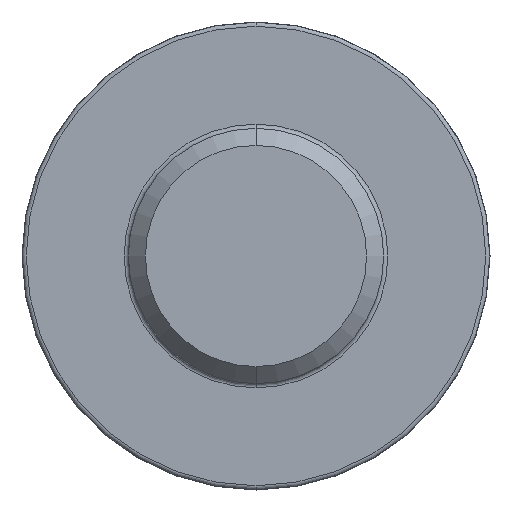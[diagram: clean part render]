
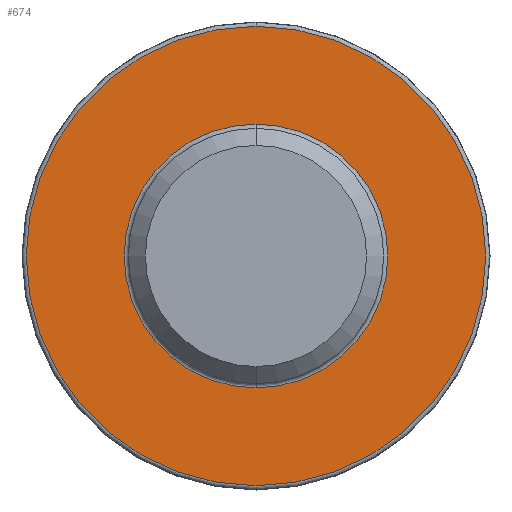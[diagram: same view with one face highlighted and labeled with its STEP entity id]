
A CAD part, front view. The second image highlights one B-rep face of the part: STEP entity #674.
In plain terms, the highlighted planar face has unit normal (0, -1, 0).
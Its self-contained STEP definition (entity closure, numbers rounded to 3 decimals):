
#22 = AXIS2_PLACEMENT_3D ( 'NONE', #90, #353, #623 ) ;
#62 = CARTESIAN_POINT ( 'NONE',  ( 1.5, -1.6, 0. ) ) ;
#76 = ORIENTED_EDGE ( 'NONE', *, *, #872, .T. ) ;
#89 = EDGE_CURVE ( 'NONE', #691, #628, #645, .T. ) ;
#90 = CARTESIAN_POINT ( 'NONE',  ( 0., -1.6, 0. ) ) ;
#145 = PLANE ( 'NONE',  #552 ) ;
#149 = EDGE_CURVE ( 'NONE', #598, #759, #389, .T. ) ;
#156 = FACE_BOUND ( 'NONE', #573, .T. ) ;
#171 = DIRECTION ( 'NONE',  ( 0., 1., 0. ) ) ;
#177 = CARTESIAN_POINT ( 'NONE',  ( 0., -1.6, 0. ) ) ;
#203 = ORIENTED_EDGE ( 'NONE', *, *, #427, .T. ) ;
#268 = ORIENTED_EDGE ( 'NONE', *, *, #149, .T. ) ;
#319 = CARTESIAN_POINT ( 'NONE',  ( 0., -1.6, -2.7 ) ) ;
#353 = DIRECTION ( 'NONE',  ( 0., 1., 0. ) ) ;
#371 = DIRECTION ( 'NONE',  ( 0., -1., 0. ) ) ;
#375 = AXIS2_PLACEMENT_3D ( 'NONE', #177, #171, #440 ) ;
#389 = CIRCLE ( 'NONE', #375, 1.55 ) ;
#410 = DIRECTION ( 'NONE',  ( 0., 0., 1. ) ) ;
#419 = FACE_OUTER_BOUND ( 'NONE', #438, .T. ) ;
#427 = EDGE_CURVE ( 'NONE', #759, #598, #670, .T. ) ;
#438 = EDGE_LOOP ( 'NONE', ( #751, #76 ) ) ;
#440 = DIRECTION ( 'NONE',  ( 0., 0., 1. ) ) ;
#442 = CIRCLE ( 'NONE', #854, 2.7 ) ;
#499 = CARTESIAN_POINT ( 'NONE',  ( 0., -1.6, 1.55 ) ) ;
#552 = AXIS2_PLACEMENT_3D ( 'NONE', #62, #820, #410 ) ;
#573 = EDGE_LOOP ( 'NONE', ( #203, #268 ) ) ;
#598 = VERTEX_POINT ( 'NONE', #727 ) ;
#623 = DIRECTION ( 'NONE',  ( 0., 0., 1. ) ) ;
#628 = VERTEX_POINT ( 'NONE', #319 ) ;
#641 = DIRECTION ( 'NONE',  ( 0., 0., 1. ) ) ;
#645 = CIRCLE ( 'NONE', #658, 2.7 ) ;
#646 = DIRECTION ( 'NONE',  ( 0., -1., 0. ) ) ;
#658 = AXIS2_PLACEMENT_3D ( 'NONE', #839, #646, #843 ) ;
#670 = CIRCLE ( 'NONE', #22, 1.55 ) ;
#674 = ADVANCED_FACE ( 'NONE', ( #156, #419 ), #145, .F. ) ;
#691 = VERTEX_POINT ( 'NONE', #816 ) ;
#727 = CARTESIAN_POINT ( 'NONE',  ( 0., -1.6, -1.55 ) ) ;
#751 = ORIENTED_EDGE ( 'NONE', *, *, #89, .T. ) ;
#759 = VERTEX_POINT ( 'NONE', #499 ) ;
#776 = CARTESIAN_POINT ( 'NONE',  ( 0., -1.6, 0. ) ) ;
#816 = CARTESIAN_POINT ( 'NONE',  ( 0., -1.6, 2.7 ) ) ;
#820 = DIRECTION ( 'NONE',  ( 0., 1., 0. ) ) ;
#839 = CARTESIAN_POINT ( 'NONE',  ( 0., -1.6, 0. ) ) ;
#843 = DIRECTION ( 'NONE',  ( 0., 0., 1. ) ) ;
#854 = AXIS2_PLACEMENT_3D ( 'NONE', #776, #371, #641 ) ;
#872 = EDGE_CURVE ( 'NONE', #628, #691, #442, .T. ) ;
